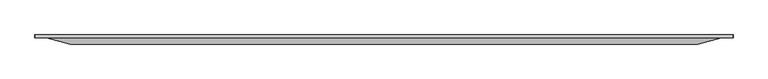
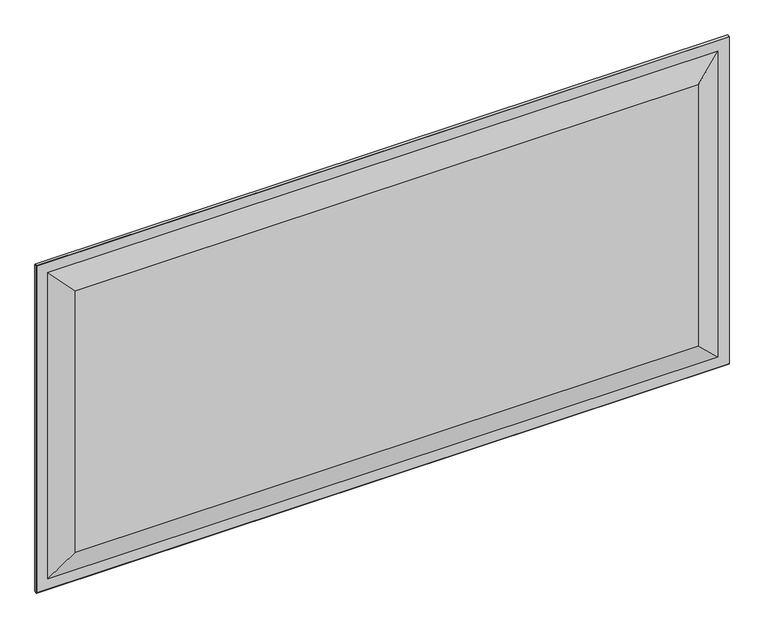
"""IFC4 building model written with IfcOpenShell, lengths in millimetres: proxy geometry, AERO^TABLE 3_ATS2S-4896-REV2-NOPOWER^WKSF03."""

from ifc_helpers import new_model, si_unit, frame, origin, place, context, project, spatial, polyline, outline, extrude, faceted_brep, source, transform, mapped, element, save


def generic_models_c6dbf1dd(model_context):
    return source(origin(), model_context, "Body", "SolidModel", [
        extrude(outline(polyline([(2437.892, 22.225), (0.508, 22.225), (0.508, 31.75), (2437.892, 31.75), (2437.892, 22.225)])), frame((0.0, 0.0, -1219.2), z_axis=(0.0, 0.0, 1.0), x_axis=(1.0, 0.0, 0.0)), (0.0, 0.0, 1.0), 0.508),
        extrude(outline(polyline([(0.508, 31.75), (0.508, 22.225), (0.0, 22.225), (0.0, 31.75), (0.508, 31.75)])), frame((0.0, 0.0, -1218.692), z_axis=(0.0, 0.0, 1.0), x_axis=(1.0, 0.0, 0.0)), (0.0, 0.0, 1.0), 1218.184),
        extrude(outline(polyline([(2437.892, 22.225), (0.508, 22.225), (0.508, 31.75), (2437.892, 31.75), (2437.892, 22.225)])), frame((0.0, 0.0, -0.508), z_axis=(0.0, 0.0, 1.0), x_axis=(1.0, 0.0, 0.0)), (0.0, 0.0, 1.0), 0.508),
        faceted_brep([(2315.0604001, 0.0, -1095.8604001), (2315.0604001, 0.0, -123.3395999), (123.3395999, 0.0, -123.3395999), (123.3395999, 0.0, -1095.8604001), (2437.892, 22.225, -0.508), (0.508, 22.225, -0.508), (0.508, 22.225, -1218.692), (2437.892, 22.225, -1218.692), (40.3947707, 22.225, -1178.8052293), (40.3947707, 22.225, -40.3947707), (2398.0052293, 22.225, -40.3947707), (2398.0052293, 22.225, -1178.8052293), (2437.892, 31.75, -1218.692), (2437.892, 31.75, -0.508), (0.508, 31.75, -1218.692), (0.508, 31.75, -0.508)], [[[0, 1, 2, 3]], [[4, 5, 6, 7], [8, 9, 10, 11]], [[0, 11, 10, 1]], [[11, 0, 3, 8]], [[1, 10, 9, 2]], [[8, 3, 2, 9]], [[4, 7, 12, 13]], [[7, 6, 14, 12]], [[6, 5, 15, 14]], [[5, 4, 13, 15]], [[14, 15, 13, 12]]]),
        extrude(outline(polyline([(2437.892, 22.225), (2437.892, 31.75), (2438.4, 31.75), (2438.4, 22.225), (2437.892, 22.225)])), frame((0.0, 0.0, -1218.692), z_axis=(0.0, 0.0, 1.0), x_axis=(1.0, 0.0, 0.0)), (0.0, 0.0, 1.0), 1218.184),
    ])


if __name__ == "__main__":
    model = new_model("IFC4")
    model_context = context("Model", 3, world=origin())
    ifc_project = project(units=[si_unit("LENGTHUNIT", "METRE", prefix="MILLI")], contexts=[model_context])
    site = spatial("IfcSite", under=ifc_project)
    building = spatial("IfcBuilding", under=site)
    placement = place(None, origin())
    generic_models_shape = generic_models_c6dbf1dd(model_context)
    element("IfcBuildingElementProxy", 1, Name="AERO^TABLE 3_ATS2S-4896-REV2-NOPOWER^WKSF03", ObjectType="AERO^TABLE 3_ATS2S-4896-REV2-NOPOWER^WKSF03", at=placement, inside=building, context=model_context, shape_type="MappedRepresentation", body=[
        mapped(generic_models_shape, transform((0.0, 0.0, 0.0), x_axis=(1.0, 0.0, 0.0), y_axis=(0.0, 1.0, 0.0), z_axis=(0.0, 0.0, 1.0))),
    ])
    save(model, "model.ifc")
